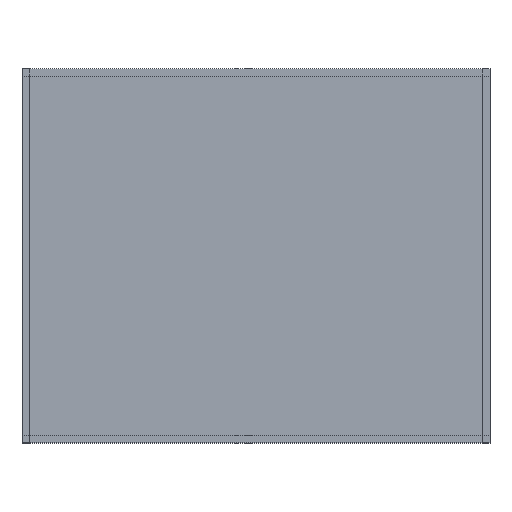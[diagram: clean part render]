
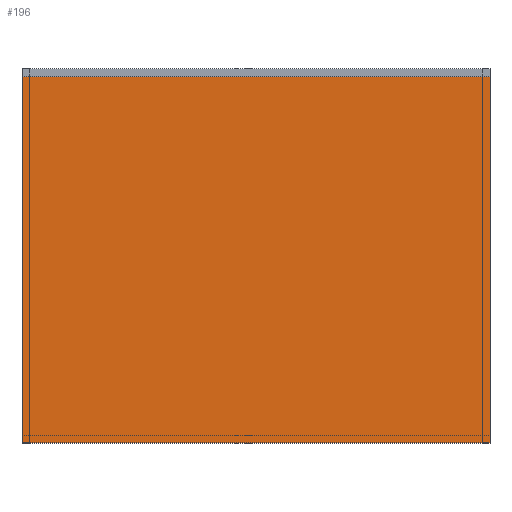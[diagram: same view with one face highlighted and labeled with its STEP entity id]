
A CAD part, top view. The second image highlights one B-rep face of the part: STEP entity #196.
In plain terms, the highlighted planar face has unit normal (0, 0, 1).
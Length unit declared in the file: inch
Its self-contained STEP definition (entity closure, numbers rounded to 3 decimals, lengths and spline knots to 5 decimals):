
#76=CARTESIAN_POINT('',(3.05,-0.05026,1.24999));
#77=VERTEX_POINT('',#76);
#84=CARTESIAN_POINT('',(-0.05,-0.05026,1.24999));
#85=VERTEX_POINT('',#84);
#86=CARTESIAN_POINT('',(-0.05,-0.05026,1.24999));
#87=DIRECTION('',(1.,0.,-0.));
#88=VECTOR('',#87,3.1);
#89=LINE('',#86,#88);
#90=EDGE_CURVE('',#85,#77,#89,.T.);
#114=CARTESIAN_POINT('',(3.05,2.42475,1.25049));
#115=VERTEX_POINT('',#114);
#122=CARTESIAN_POINT('',(3.05,-0.05026,1.24999));
#123=DIRECTION('',(0.,1.,0.));
#124=VECTOR('',#123,2.475);
#125=LINE('',#122,#124);
#126=EDGE_CURVE('',#77,#115,#125,.T.);
#146=CARTESIAN_POINT('',(-0.05,2.42475,1.25049));
#147=VERTEX_POINT('',#146);
#148=CARTESIAN_POINT('',(-0.05,-0.05026,1.24999));
#149=DIRECTION('',(0.,1.,0.));
#150=VECTOR('',#149,2.475);
#151=LINE('',#148,#150);
#152=EDGE_CURVE('',#85,#147,#151,.T.);
#175=CARTESIAN_POINT('',(-0.05,2.42475,1.25049));
#176=DIRECTION('',(1.,0.,-0.));
#177=VECTOR('',#176,3.1);
#178=LINE('',#175,#177);
#179=EDGE_CURVE('',#147,#115,#178,.T.);
#185=CARTESIAN_POINT('',(-0.05,-0.05026,1.24999));
#186=DIRECTION('',(0.,0.,1.));
#187=DIRECTION('',(1.,0.,0.));
#188=AXIS2_PLACEMENT_3D('',#185,#186,#187);
#189=PLANE('',#188);
#190=ORIENTED_EDGE('',*,*,#90,.T.);
#191=ORIENTED_EDGE('',*,*,#126,.T.);
#192=ORIENTED_EDGE('',*,*,#179,.F.);
#193=ORIENTED_EDGE('',*,*,#152,.F.);
#194=EDGE_LOOP('',(#190,#191,#192,#193));
#195=FACE_BOUND('',#194,.T.);
#196=ADVANCED_FACE('',(#195),#189,.T.);
